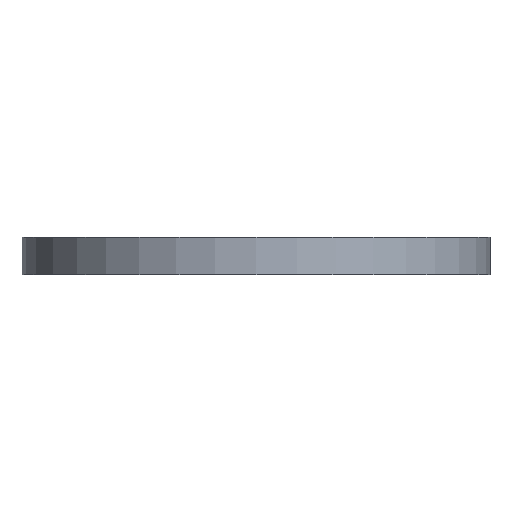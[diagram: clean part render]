
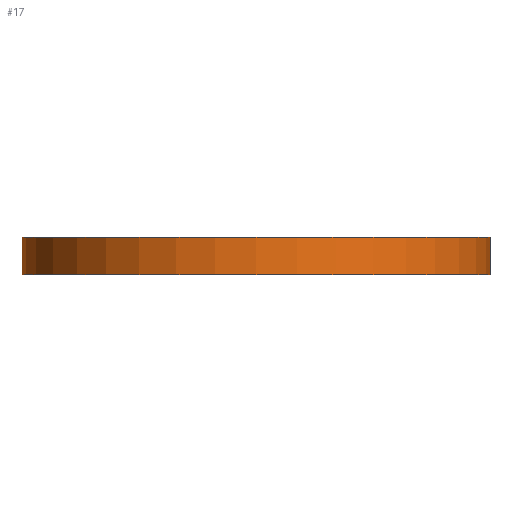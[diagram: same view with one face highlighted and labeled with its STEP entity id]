
A CAD part, front view. The second image highlights one B-rep face of the part: STEP entity #17.
In plain terms, the highlighted cylindrical face has radius 75 mm (diameter 150 mm), a full revolution.
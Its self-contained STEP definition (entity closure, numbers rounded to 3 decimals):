
#17 = ADVANCED_FACE('',(#18),#32,.T.);
#18 = FACE_BOUND('',#19,.F.);
#19 = EDGE_LOOP('',(#20,#50,#77,#78));
#20 = ORIENTED_EDGE('',*,*,#21,.T.);
#21 = EDGE_CURVE('',#22,#24,#26,.T.);
#22 = VERTEX_POINT('',#23);
#23 = CARTESIAN_POINT('',(75.,0.,-6.));
#24 = VERTEX_POINT('',#25);
#25 = CARTESIAN_POINT('',(75.,0.,6.));
#26 = SEAM_CURVE('',#27,(#31,#43),.PCURVE_S1.);
#27 = LINE('',#28,#29);
#28 = CARTESIAN_POINT('',(75.,0.,-6.));
#29 = VECTOR('',#30,1.);
#30 = DIRECTION('',(0.,0.,1.));
#31 = PCURVE('',#32,#37);
#32 = CYLINDRICAL_SURFACE('',#33,75.);
#33 = AXIS2_PLACEMENT_3D('',#34,#35,#36);
#34 = CARTESIAN_POINT('',(0.,0.,-6.));
#35 = DIRECTION('',(-0.,-0.,-1.));
#36 = DIRECTION('',(1.,0.,0.));
#37 = DEFINITIONAL_REPRESENTATION('',(#38),#42);
#38 = LINE('',#39,#40);
#39 = CARTESIAN_POINT('',(-0.,0.));
#40 = VECTOR('',#41,1.);
#41 = DIRECTION('',(-0.,-1.));
#42 = ( GEOMETRIC_REPRESENTATION_CONTEXT(2) 
PARAMETRIC_REPRESENTATION_CONTEXT() REPRESENTATION_CONTEXT('2D SPACE',''
  ) );
#43 = PCURVE('',#32,#44);
#44 = DEFINITIONAL_REPRESENTATION('',(#45),#49);
#45 = LINE('',#46,#47);
#46 = CARTESIAN_POINT('',(-6.283,0.));
#47 = VECTOR('',#48,1.);
#48 = DIRECTION('',(-0.,-1.));
#49 = ( GEOMETRIC_REPRESENTATION_CONTEXT(2) 
PARAMETRIC_REPRESENTATION_CONTEXT() REPRESENTATION_CONTEXT('2D SPACE',''
  ) );
#50 = ORIENTED_EDGE('',*,*,#51,.T.);
#51 = EDGE_CURVE('',#24,#24,#52,.T.);
#52 = SURFACE_CURVE('',#53,(#58,#65),.PCURVE_S1.);
#53 = CIRCLE('',#54,75.);
#54 = AXIS2_PLACEMENT_3D('',#55,#56,#57);
#55 = CARTESIAN_POINT('',(0.,0.,6.));
#56 = DIRECTION('',(0.,0.,1.));
#57 = DIRECTION('',(1.,0.,0.));
#58 = PCURVE('',#32,#59);
#59 = DEFINITIONAL_REPRESENTATION('',(#60),#64);
#60 = LINE('',#61,#62);
#61 = CARTESIAN_POINT('',(-0.,-12.));
#62 = VECTOR('',#63,1.);
#63 = DIRECTION('',(-1.,0.));
#64 = ( GEOMETRIC_REPRESENTATION_CONTEXT(2) 
PARAMETRIC_REPRESENTATION_CONTEXT() REPRESENTATION_CONTEXT('2D SPACE',''
  ) );
#65 = PCURVE('',#66,#71);
#66 = PLANE('',#67);
#67 = AXIS2_PLACEMENT_3D('',#68,#69,#70);
#68 = CARTESIAN_POINT('',(0.,0.,6.));
#69 = DIRECTION('',(0.,0.,1.));
#70 = DIRECTION('',(1.,0.,-0.));
#71 = DEFINITIONAL_REPRESENTATION('',(#72),#76);
#72 = CIRCLE('',#73,75.);
#73 = AXIS2_PLACEMENT_2D('',#74,#75);
#74 = CARTESIAN_POINT('',(0.,0.));
#75 = DIRECTION('',(1.,0.));
#76 = ( GEOMETRIC_REPRESENTATION_CONTEXT(2) 
PARAMETRIC_REPRESENTATION_CONTEXT() REPRESENTATION_CONTEXT('2D SPACE',''
  ) );
#77 = ORIENTED_EDGE('',*,*,#21,.F.);
#78 = ORIENTED_EDGE('',*,*,#79,.F.);
#79 = EDGE_CURVE('',#22,#22,#80,.T.);
#80 = SURFACE_CURVE('',#81,(#86,#93),.PCURVE_S1.);
#81 = CIRCLE('',#82,75.);
#82 = AXIS2_PLACEMENT_3D('',#83,#84,#85);
#83 = CARTESIAN_POINT('',(0.,0.,-6.));
#84 = DIRECTION('',(0.,0.,1.));
#85 = DIRECTION('',(1.,0.,0.));
#86 = PCURVE('',#32,#87);
#87 = DEFINITIONAL_REPRESENTATION('',(#88),#92);
#88 = LINE('',#89,#90);
#89 = CARTESIAN_POINT('',(-0.,0.));
#90 = VECTOR('',#91,1.);
#91 = DIRECTION('',(-1.,0.));
#92 = ( GEOMETRIC_REPRESENTATION_CONTEXT(2) 
PARAMETRIC_REPRESENTATION_CONTEXT() REPRESENTATION_CONTEXT('2D SPACE',''
  ) );
#93 = PCURVE('',#94,#99);
#94 = PLANE('',#95);
#95 = AXIS2_PLACEMENT_3D('',#96,#97,#98);
#96 = CARTESIAN_POINT('',(0.,0.,-6.));
#97 = DIRECTION('',(0.,0.,1.));
#98 = DIRECTION('',(1.,0.,-0.));
#99 = DEFINITIONAL_REPRESENTATION('',(#100),#104);
#100 = CIRCLE('',#101,75.);
#101 = AXIS2_PLACEMENT_2D('',#102,#103);
#102 = CARTESIAN_POINT('',(0.,0.));
#103 = DIRECTION('',(1.,0.));
#104 = ( GEOMETRIC_REPRESENTATION_CONTEXT(2) 
PARAMETRIC_REPRESENTATION_CONTEXT() REPRESENTATION_CONTEXT('2D SPACE',''
  ) );
